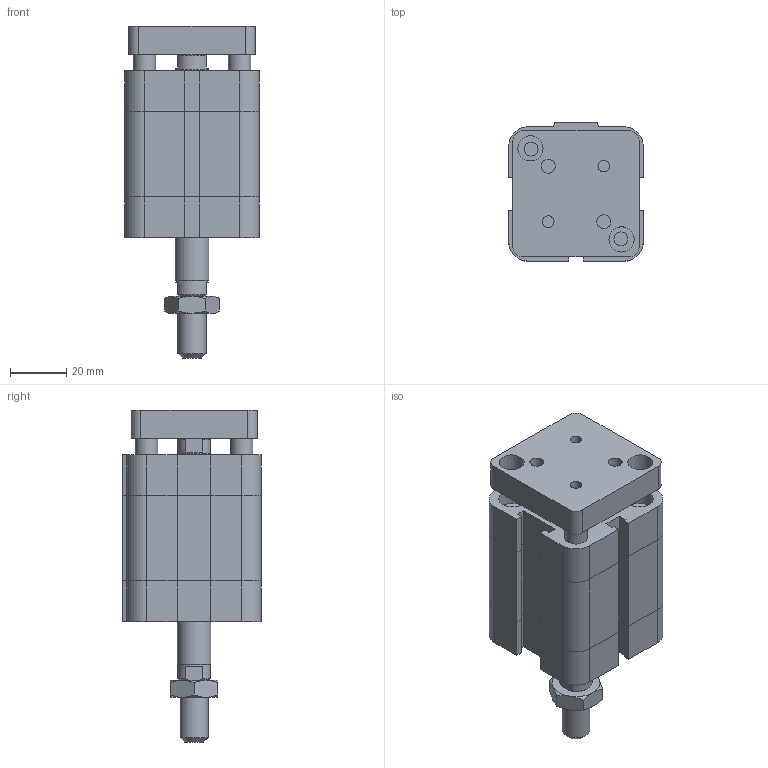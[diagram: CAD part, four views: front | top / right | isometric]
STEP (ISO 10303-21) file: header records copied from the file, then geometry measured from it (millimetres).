
FILE_DESCRIPTION((''),'2;1');
FILE_NAME('I:\Area Tecnica\Disegni\VARIE-3D\Componenti\EUROPE\15##_###_####_09_#\1581_32_0015_09_1.iam.stp','2009-04-20T15:44:06',(''),(''),'Autodesk Inventor 2009','Autodesk Inventor 2009','');
FILE_SCHEMA(('AUTOMOTIVE_DESIGN { 1 0 10303 214 1 1 1 1 }'));
Length unit declared in the file: millimetre
Products named in the file (4): 1581_32_0015_09_1; 1581_32_0015_08_1_C; 1561_32_0015_09_1_SA; DBFM10
Assembly tree (3 placements, depth 2):
  1581_32_0015_09_1
    1581_32_0015_08_1_C
    1561_32_0015_09_1_SA
    DBFM10
Bounding box: 48 x 49.5 x 118.5 mm (x, y, z)
Volume: 145836.6 mm3; surface area: 36715.5 mm2
Topology: 3 solids, 3 shells, 209 faces, 470 edges, 287 vertices
Faces by surface type: plane 120, bspline 45, cylinder 23, cone 21
Full cylindrical faces by diameter (mm): 8 x2, 8.8 x1, 10 x1, 11.7 x2, 12 x1
Entity records: 5963 total; most frequent: CARTESIAN_POINT 1453, DIRECTION 838, ORIENTED_EDGE 834, EDGE_CURVE 417, AXIS2_PLACEMENT_3D 282, EDGE_LOOP 282, VECTOR 274, LINE 274
